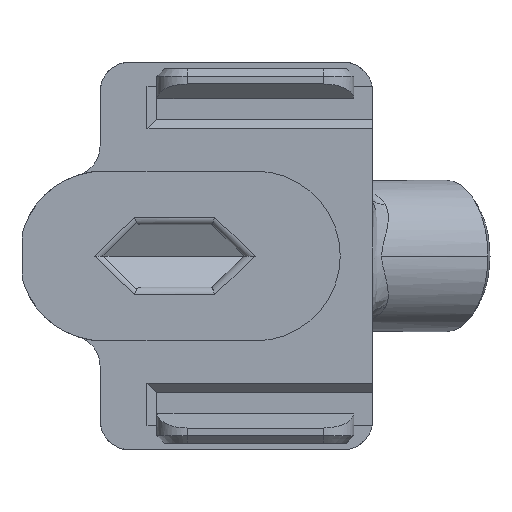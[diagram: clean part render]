
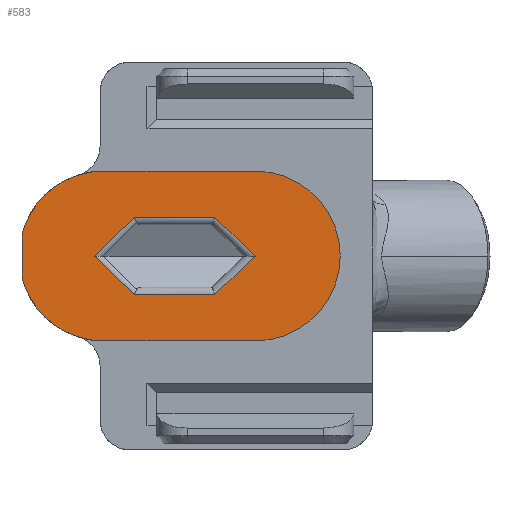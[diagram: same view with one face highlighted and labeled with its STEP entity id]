
A CAD part, left-side view. The second image highlights one B-rep face of the part: STEP entity #583.
In plain terms, the highlighted planar face has unit normal (-1, 0, 0).
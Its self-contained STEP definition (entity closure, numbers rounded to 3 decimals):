
#28 = DIRECTION ( 'NONE',  ( -1., 0., 0. ) ) ;
#63 = VERTEX_POINT ( 'NONE', #3824 ) ;
#123 = CARTESIAN_POINT ( 'NONE',  ( 0., -523.552, -5.599 ) ) ;
#131 = CIRCLE ( 'NONE', #2770, 5.6 ) ;
#134 = VERTEX_POINT ( 'NONE', #3299 ) ;
#150 = DIRECTION ( 'NONE',  ( 0., 1., 0. ) ) ;
#202 = DIRECTION ( 'NONE',  ( 1., 0., 0. ) ) ;
#204 = VECTOR ( 'NONE', #4783, 1000. ) ;
#206 = AXIS2_PLACEMENT_3D ( 'NONE', #3236, #1008, #3260 ) ;
#249 = ORIENTED_EDGE ( 'NONE', *, *, #507, .T. ) ;
#280 = AXIS2_PLACEMENT_3D ( 'NONE', #4227, #904, #2398 ) ;
#323 = LINE ( 'NONE', #672, #4668 ) ;
#400 = CARTESIAN_POINT ( 'NONE',  ( 0., -523.552, 2.55 ) ) ;
#417 = CARTESIAN_POINT ( 'NONE',  ( 0., -518.446, -5.307 ) ) ;
#496 = EDGE_LOOP ( 'NONE', ( #3826, #1260, #2137, #2066, #1891, #3123, #2004, #1048, #3867 ) ) ;
#507 = EDGE_CURVE ( 'NONE', #4135, #4140, #323, .T. ) ;
#583 = ADVANCED_FACE ( 'NONE', ( #3947, #916 ), #3216, .F. ) ;
#630 = CARTESIAN_POINT ( 'NONE',  ( 0., -513.552, 5.601 ) ) ;
#661 = VERTEX_POINT ( 'NONE', #3263 ) ;
#672 = CARTESIAN_POINT ( 'NONE',  ( 0., -523.552, -2.55 ) ) ;
#673 = CIRCLE ( 'NONE', #206, 5.6 ) ;
#744 = EDGE_CURVE ( 'NONE', #63, #3951, #3461, .T. ) ;
#773 = AXIS2_PLACEMENT_3D ( 'NONE', #867, #4189, #2667 ) ;
#831 = CARTESIAN_POINT ( 'NONE',  ( 0., -508.152, 0.001 ) ) ;
#867 = CARTESIAN_POINT ( 'NONE',  ( 0., -523.552, 0.001 ) ) ;
#887 = DIRECTION ( 'NONE',  ( 0., 0.721, 0.693 ) ) ;
#904 = DIRECTION ( 'NONE',  ( -1., 0., 0. ) ) ;
#916 = FACE_OUTER_BOUND ( 'NONE', #496, .T. ) ;
#933 = CARTESIAN_POINT ( 'NONE',  ( 0., -523.543, 0.01 ) ) ;
#961 = DIRECTION ( 'NONE',  ( 0., 1., 0. ) ) ;
#964 = VECTOR ( 'NONE', #1169, 1000. ) ;
#1008 = DIRECTION ( 'NONE',  ( 1., 0., 0. ) ) ;
#1048 = ORIENTED_EDGE ( 'NONE', *, *, #2391, .F. ) ;
#1169 = DIRECTION ( 'NONE',  ( 0., -1., 0. ) ) ;
#1223 = VECTOR ( 'NONE', #2326, 1000. ) ;
#1260 = ORIENTED_EDGE ( 'NONE', *, *, #3203, .T. ) ;
#1264 = DIRECTION ( 'NONE',  ( 0., 0., -1. ) ) ;
#1334 = EDGE_CURVE ( 'NONE', #2334, #2613, #1785, .T. ) ;
#1346 = AXIS2_PLACEMENT_3D ( 'NONE', #2438, #3547, #3206 ) ;
#1435 = VERTEX_POINT ( 'NONE', #2133 ) ;
#1442 = VECTOR ( 'NONE', #4372, 1000. ) ;
#1480 = CARTESIAN_POINT ( 'NONE',  ( 0., -523.542, -0.01 ) ) ;
#1521 = AXIS2_PLACEMENT_3D ( 'NONE', #1997, #28, #3457 ) ;
#1542 = LINE ( 'NONE', #417, #3017 ) ;
#1548 = EDGE_CURVE ( 'NONE', #134, #4135, #4263, .T. ) ;
#1565 = VERTEX_POINT ( 'NONE', #2872 ) ;
#1590 = CIRCLE ( 'NONE', #1346, 5.6 ) ;
#1593 = ORIENTED_EDGE ( 'NONE', *, *, #4518, .T. ) ;
#1606 = VERTEX_POINT ( 'NONE', #2967 ) ;
#1615 = VECTOR ( 'NONE', #2447, 1000. ) ;
#1711 = CARTESIAN_POINT ( 'NONE',  ( 0., -529.152, 0.001 ) ) ;
#1779 = VECTOR ( 'NONE', #4771, 1000. ) ;
#1785 = CIRCLE ( 'NONE', #773, 5.6 ) ;
#1799 = CARTESIAN_POINT ( 'NONE',  ( 0., -515.579, -2.55 ) ) ;
#1891 = ORIENTED_EDGE ( 'NONE', *, *, #3290, .F. ) ;
#1896 = CARTESIAN_POINT ( 'NONE',  ( 0., -518.447, 5.308 ) ) ;
#1996 = VERTEX_POINT ( 'NONE', #2937 ) ;
#1997 = CARTESIAN_POINT ( 'NONE',  ( 0., -510.152, 1.184 ) ) ;
#2004 = ORIENTED_EDGE ( 'NONE', *, *, #2546, .F. ) ;
#2066 = ORIENTED_EDGE ( 'NONE', *, *, #2424, .F. ) ;
#2131 = EDGE_LOOP ( 'NONE', ( #3417, #249, #4277, #1593, #3716, #2593 ) ) ;
#2133 = CARTESIAN_POINT ( 'NONE',  ( 0., -512.928, 0. ) ) ;
#2137 = ORIENTED_EDGE ( 'NONE', *, *, #2880, .F. ) ;
#2186 = CARTESIAN_POINT ( 'NONE',  ( 0., -513.552, -5.599 ) ) ;
#2326 = DIRECTION ( 'NONE',  ( 0., 1., 0. ) ) ;
#2334 = VERTEX_POINT ( 'NONE', #2663 ) ;
#2391 = EDGE_CURVE ( 'NONE', #63, #4207, #131, .T. ) ;
#2398 = DIRECTION ( 'NONE',  ( 0., 1., 0. ) ) ;
#2424 = EDGE_CURVE ( 'NONE', #661, #4772, #2688, .T. ) ;
#2438 = CARTESIAN_POINT ( 'NONE',  ( 0., -523.552, 0.001 ) ) ;
#2447 = DIRECTION ( 'NONE',  ( 0., 0.721, -0.693 ) ) ;
#2451 = CARTESIAN_POINT ( 'NONE',  ( 0., -523.552, 0.001 ) ) ;
#2546 = EDGE_CURVE ( 'NONE', #4207, #2334, #4739, .T. ) ;
#2593 = ORIENTED_EDGE ( 'NONE', *, *, #2700, .T. ) ;
#2594 = VECTOR ( 'NONE', #1264, 1000. ) ;
#2613 = VERTEX_POINT ( 'NONE', #1711 ) ;
#2663 = CARTESIAN_POINT ( 'NONE',  ( 0., -523.552, 5.601 ) ) ;
#2667 = DIRECTION ( 'NONE',  ( 0., 1., 0. ) ) ;
#2688 = LINE ( 'NONE', #123, #1223 ) ;
#2700 = EDGE_CURVE ( 'NONE', #2747, #134, #4024, .T. ) ;
#2725 = CARTESIAN_POINT ( 'NONE',  ( 0., -508.152, 1.184 ) ) ;
#2738 = CARTESIAN_POINT ( 'NONE',  ( 0., -520.881, 2.55 ) ) ;
#2747 = VERTEX_POINT ( 'NONE', #2738 ) ;
#2770 = AXIS2_PLACEMENT_3D ( 'NONE', #3479, #4163, #150 ) ;
#2872 = CARTESIAN_POINT ( 'NONE',  ( 0., -508.152, -1.182 ) ) ;
#2880 = EDGE_CURVE ( 'NONE', #4772, #1606, #673, .T. ) ;
#2937 = CARTESIAN_POINT ( 'NONE',  ( 0., -515.579, 2.55 ) ) ;
#2967 = CARTESIAN_POINT ( 'NONE',  ( 0., -508.263, -1.84 ) ) ;
#2980 = CARTESIAN_POINT ( 'NONE',  ( 0., -513.552, 5.601 ) ) ;
#3017 = VECTOR ( 'NONE', #887, 1000. ) ;
#3039 = LINE ( 'NONE', #831, #2594 ) ;
#3123 = ORIENTED_EDGE ( 'NONE', *, *, #1334, .F. ) ;
#3203 = EDGE_CURVE ( 'NONE', #1565, #1606, #3781, .T. ) ;
#3206 = DIRECTION ( 'NONE',  ( 0., 1., 0. ) ) ;
#3216 = PLANE ( 'NONE',  #3889 ) ;
#3236 = CARTESIAN_POINT ( 'NONE',  ( 0., -513.552, 0.001 ) ) ;
#3260 = DIRECTION ( 'NONE',  ( 0., 1., 0. ) ) ;
#3263 = CARTESIAN_POINT ( 'NONE',  ( 0., -523.552, -5.599 ) ) ;
#3290 = EDGE_CURVE ( 'NONE', #2613, #661, #1590, .T. ) ;
#3299 = CARTESIAN_POINT ( 'NONE',  ( 0., -523.532, 0. ) ) ;
#3336 = LINE ( 'NONE', #1896, #1779 ) ;
#3417 = ORIENTED_EDGE ( 'NONE', *, *, #1548, .T. ) ;
#3457 = DIRECTION ( 'NONE',  ( 0., 1., 0. ) ) ;
#3461 = CIRCLE ( 'NONE', #1521, 2. ) ;
#3479 = CARTESIAN_POINT ( 'NONE',  ( 0., -513.552, 0.001 ) ) ;
#3523 = EDGE_CURVE ( 'NONE', #3951, #1565, #3039, .T. ) ;
#3547 = DIRECTION ( 'NONE',  ( 1., 0., 0. ) ) ;
#3716 = ORIENTED_EDGE ( 'NONE', *, *, #3759, .T. ) ;
#3759 = EDGE_CURVE ( 'NONE', #1996, #2747, #4467, .T. ) ;
#3781 = CIRCLE ( 'NONE', #280, 2. ) ;
#3824 = CARTESIAN_POINT ( 'NONE',  ( 0., -508.263, 1.841 ) ) ;
#3826 = ORIENTED_EDGE ( 'NONE', *, *, #3523, .T. ) ;
#3867 = ORIENTED_EDGE ( 'NONE', *, *, #744, .T. ) ;
#3889 = AXIS2_PLACEMENT_3D ( 'NONE', #2451, #202, #961 ) ;
#3922 = DIRECTION ( 'NONE',  ( 0., 1., 0. ) ) ;
#3947 = FACE_BOUND ( 'NONE', #2131, .T. ) ;
#3951 = VERTEX_POINT ( 'NONE', #2725 ) ;
#4024 = LINE ( 'NONE', #1480, #204 ) ;
#4135 = VERTEX_POINT ( 'NONE', #4661 ) ;
#4140 = VERTEX_POINT ( 'NONE', #1799 ) ;
#4163 = DIRECTION ( 'NONE',  ( 1., 0., 0. ) ) ;
#4189 = DIRECTION ( 'NONE',  ( 1., 0., 0. ) ) ;
#4207 = VERTEX_POINT ( 'NONE', #2980 ) ;
#4227 = CARTESIAN_POINT ( 'NONE',  ( 0., -510.152, -1.182 ) ) ;
#4263 = LINE ( 'NONE', #933, #1615 ) ;
#4277 = ORIENTED_EDGE ( 'NONE', *, *, #4624, .T. ) ;
#4372 = DIRECTION ( 'NONE',  ( 0., -1., 0. ) ) ;
#4467 = LINE ( 'NONE', #400, #964 ) ;
#4518 = EDGE_CURVE ( 'NONE', #1435, #1996, #3336, .T. ) ;
#4624 = EDGE_CURVE ( 'NONE', #4140, #1435, #1542, .T. ) ;
#4661 = CARTESIAN_POINT ( 'NONE',  ( 0., -520.881, -2.55 ) ) ;
#4668 = VECTOR ( 'NONE', #3922, 1000. ) ;
#4739 = LINE ( 'NONE', #630, #1442 ) ;
#4771 = DIRECTION ( 'NONE',  ( 0., -0.721, 0.693 ) ) ;
#4772 = VERTEX_POINT ( 'NONE', #2186 ) ;
#4783 = DIRECTION ( 'NONE',  ( 0., -0.721, -0.693 ) ) ;
